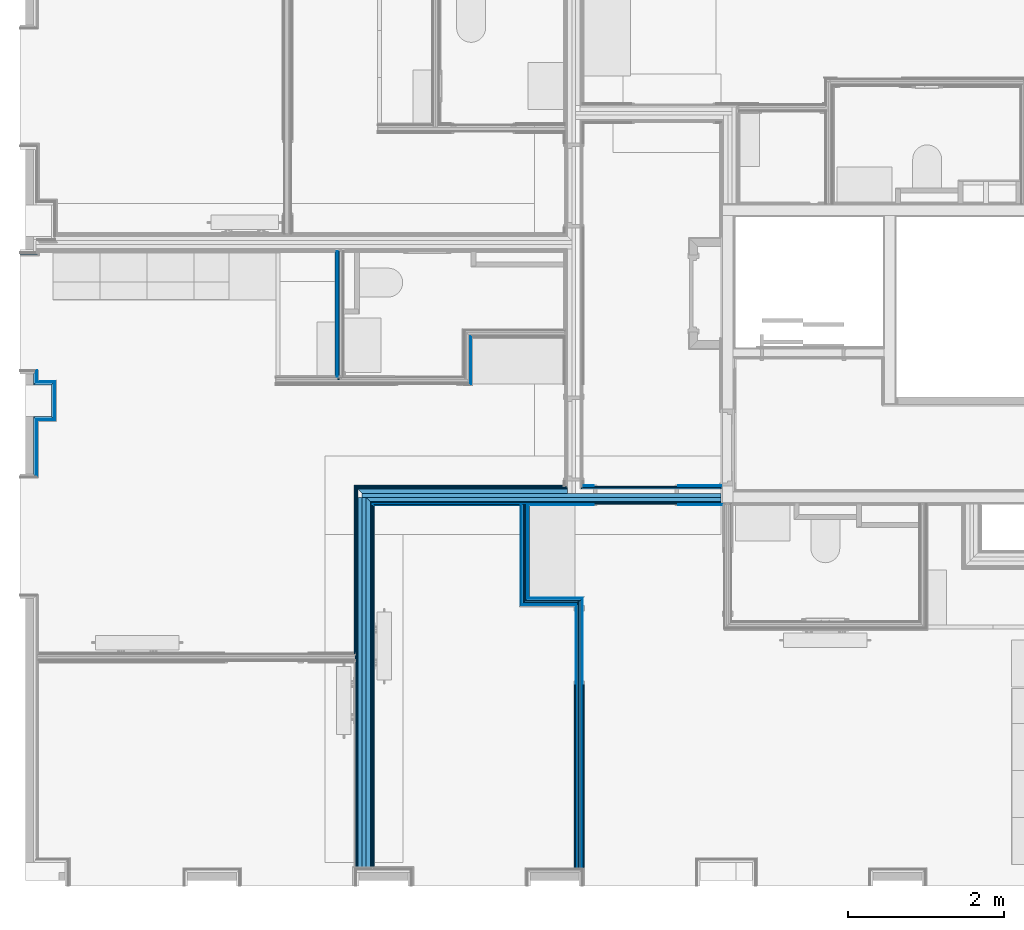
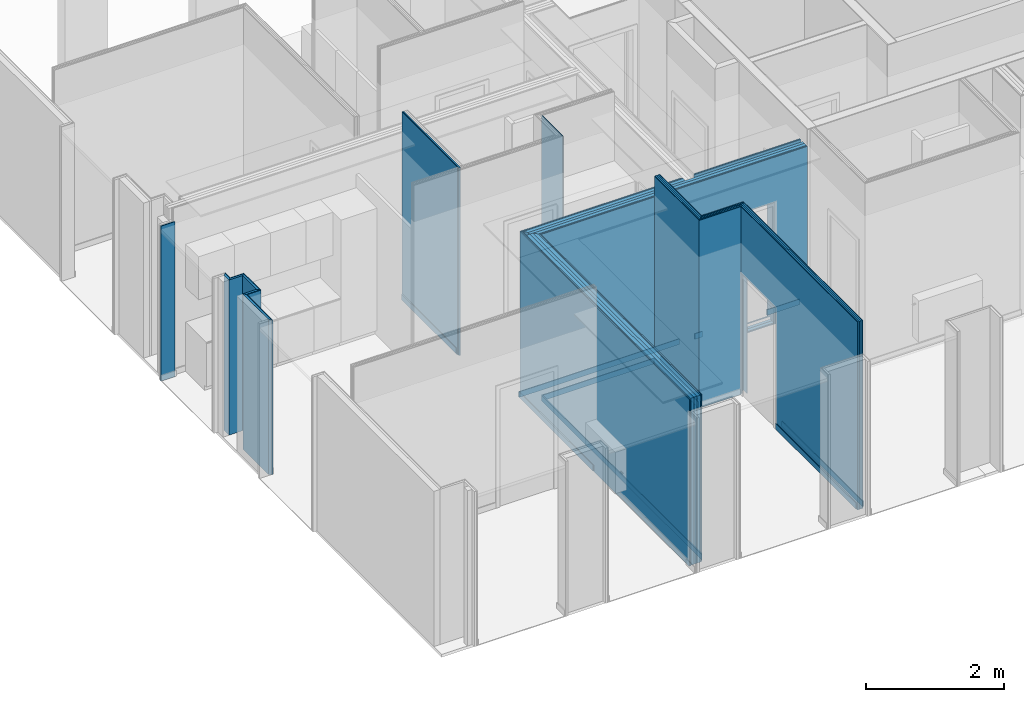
# One storey, part 10 of 64: 56 building element parts, 3 openings, 13 elements without a shape of their own.
"""IFC2X3 building model written with IfcOpenShell, lengths in metres."""

from ifc_helpers import new_model, entity, si_unit, converted_unit, derived_unit, money_unit, direction, frame, frame_2d, origin_with_axes, place, context, subcontext, project, spatial, polyline, rectangle, outline, extrude, material, type_object, element, aggregate, save


model = new_model("IFC2X3")

# Units and contexts
model_context = context("Model", 3, precision=1e-05, world=origin_with_axes(), true_north=direction((0.0, 1.0)))
body_context = subcontext(model_context, "Body", "Model", "MODEL_VIEW", scale=1.0)
ifc_project = project(units=[si_unit("LENGTHUNIT", "METRE"), si_unit("AREAUNIT", "SQUARE_METRE"), si_unit("VOLUMEUNIT", "CUBIC_METRE"), si_unit("ABSORBEDDOSEUNIT", "GRAY"), si_unit("AMOUNTOFSUBSTANCEUNIT", "MOLE"), si_unit("DOSEEQUIVALENTUNIT", "SIEVERT"), si_unit("ELECTRICCAPACITANCEUNIT", "FARAD"), si_unit("ELECTRICCHARGEUNIT", "COULOMB"), si_unit("ELECTRICCONDUCTANCEUNIT", "SIEMENS"), si_unit("ELECTRICCURRENTUNIT", "AMPERE"), si_unit("ELECTRICRESISTANCEUNIT", "OHM"), si_unit("ELECTRICVOLTAGEUNIT", "VOLT"), si_unit("ENERGYUNIT", "JOULE"), si_unit("FORCEUNIT", "NEWTON"), si_unit("FREQUENCYUNIT", "HERTZ"), si_unit("ILLUMINANCEUNIT", "LUX"), si_unit("INDUCTANCEUNIT", "HENRY"), si_unit("LUMINOUSFLUXUNIT", "LUMEN"), si_unit("LUMINOUSINTENSITYUNIT", "CANDELA"), si_unit("MAGNETICFLUXDENSITYUNIT", "TESLA"), si_unit("MAGNETICFLUXUNIT", "WEBER"), si_unit("MASSUNIT", "GRAM"), converted_unit("PLANEANGLEUNIT", "degree", entity("IfcReal", 0.0174532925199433), si_unit("PLANEANGLEUNIT", "RADIAN"), dimensions=[0, 0, 0, 0, 0, 0, 0]), si_unit("POWERUNIT", "WATT"), si_unit("PRESSUREUNIT", "PASCAL"), si_unit("RADIOACTIVITYUNIT", "BECQUEREL"), si_unit("SOLIDANGLEUNIT", "STERADIAN"), si_unit("THERMODYNAMICTEMPERATUREUNIT", "KELVIN"), si_unit("TIMEUNIT", "SECOND"), derived_unit("ACCELERATIONUNIT", [(si_unit("LENGTHUNIT", "METRE"), 1), (si_unit("TIMEUNIT", "SECOND"), -2)]), derived_unit("ANGULARVELOCITYUNIT", [(converted_unit("PLANEANGLEUNIT", "degree", entity("IfcReal", 0.0174532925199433), si_unit("PLANEANGLEUNIT", "RADIAN"), dimensions=[0, 0, 0, 0, 0, 0, 0]), 1), (si_unit("TIMEUNIT", "SECOND"), -1)]), derived_unit("CURVATUREUNIT", [(converted_unit("PLANEANGLEUNIT", "degree", entity("IfcReal", 0.0174532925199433), si_unit("PLANEANGLEUNIT", "RADIAN"), dimensions=[0, 0, 0, 0, 0, 0, 0]), 1), (si_unit("LENGTHUNIT", "METRE"), -1)]), derived_unit("DYNAMICVISCOSITYUNIT", [(si_unit("PRESSUREUNIT", "PASCAL"), 1), (si_unit("TIMEUNIT", "SECOND"), 1)]), derived_unit("HEATFLUXDENSITYUNIT", [(si_unit("POWERUNIT", "WATT"), 1), (si_unit("LENGTHUNIT", "METRE"), -2)]), derived_unit("HEATINGVALUEUNIT", [(si_unit("ENERGYUNIT", "JOULE"), 1), (si_unit("MASSUNIT", "GRAM"), -1)]), derived_unit("INTEGERCOUNTRATEUNIT", [(si_unit("TIMEUNIT", "SECOND"), -1)]), derived_unit("IONCONCENTRATIONUNIT", [(si_unit("MASSUNIT", "GRAM"), 1), (si_unit("VOLUMEUNIT", "CUBIC_METRE"), -1)]), derived_unit("ISOTHERMALMOISTURECAPACITYUNIT", [(si_unit("VOLUMEUNIT", "CUBIC_METRE"), 1), (si_unit("MASSUNIT", "GRAM"), -1)]), derived_unit("KINEMATICVISCOSITYUNIT", [(si_unit("AREAUNIT", "SQUARE_METRE"), 1), (si_unit("TIMEUNIT", "SECOND"), -1)]), derived_unit("LINEARFORCEUNIT", [(si_unit("FORCEUNIT", "NEWTON"), 1), (si_unit("LENGTHUNIT", "METRE"), -1)]), derived_unit("LINEARMOMENTUNIT", [(si_unit("FORCEUNIT", "NEWTON"), 1), (si_unit("LENGTHUNIT", "METRE"), -1)]), derived_unit("LINEARSTIFFNESSUNIT", [(si_unit("FORCEUNIT", "NEWTON"), 1), (si_unit("LENGTHUNIT", "METRE"), -1)]), derived_unit("LINEARVELOCITYUNIT", [(si_unit("LENGTHUNIT", "METRE"), 1), (si_unit("TIMEUNIT", "SECOND"), -1)]), derived_unit("LUMINOUSINTENSITYDISTRIBUTIONUNIT", [(si_unit("LUMINOUSINTENSITYUNIT", "CANDELA"), 1), (si_unit("LUMINOUSFLUXUNIT", "LUMEN"), -1)]), derived_unit("MASSDENSITYUNIT", [(si_unit("MASSUNIT", "GRAM"), 1), (si_unit("VOLUMEUNIT", "CUBIC_METRE"), -1)]), derived_unit("MASSFLOWRATEUNIT", [(si_unit("MASSUNIT", "GRAM"), 1), (si_unit("TIMEUNIT", "SECOND"), -1)]), derived_unit("MASSPERLENGTHUNIT", [(si_unit("MASSUNIT", "GRAM"), 1), (si_unit("LENGTHUNIT", "METRE"), -1)]), derived_unit("MODULUSOFELASTICITYUNIT", [(si_unit("FORCEUNIT", "NEWTON"), 1), (si_unit("AREAUNIT", "SQUARE_METRE"), -1)]), derived_unit("MODULUSOFLINEARSUBGRADEREACTIONUNIT", [(si_unit("FORCEUNIT", "NEWTON"), 1), (si_unit("LENGTHUNIT", "METRE"), -2)]), derived_unit("MODULUSOFROTATIONALSUBGRADEREACTIONUNIT", [(si_unit("FORCEUNIT", "NEWTON"), 1), (si_unit("LENGTHUNIT", "METRE"), 1)]), derived_unit("MODULUSOFSUBGRADEREACTIONUNIT", [(si_unit("FORCEUNIT", "NEWTON"), 1), (si_unit("VOLUMEUNIT", "CUBIC_METRE"), -1)]), derived_unit("MOISTUREDIFFUSIVITYUNIT", [(si_unit("VOLUMEUNIT", "CUBIC_METRE"), 1), (si_unit("TIMEUNIT", "SECOND"), -1)]), derived_unit("MOLECULARWEIGHTUNIT", [(si_unit("MASSUNIT", "GRAM"), 1), (si_unit("AMOUNTOFSUBSTANCEUNIT", "MOLE"), -1)]), derived_unit("PLANARFORCEUNIT", [(si_unit("FORCEUNIT", "NEWTON"), 1), (si_unit("LENGTHUNIT", "METRE"), -2)]), derived_unit("ROTATIONALFREQUENCYUNIT", [(si_unit("TIMEUNIT", "SECOND"), -1)]), derived_unit("ROTATIONALMASSUNIT", [(si_unit("MASSUNIT", "GRAM"), 1), (si_unit("LENGTHUNIT", "METRE"), 2)]), derived_unit("ROTATIONALSTIFFNESSUNIT", [(si_unit("FORCEUNIT", "NEWTON"), 1), (si_unit("LENGTHUNIT", "METRE"), 1), (converted_unit("PLANEANGLEUNIT", "degree", entity("IfcReal", 0.0174532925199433), si_unit("PLANEANGLEUNIT", "RADIAN"), dimensions=[0, 0, 0, 0, 0, 0, 0]), -1)]), derived_unit("SECTIONAREAINTEGRALUNIT", [(si_unit("LENGTHUNIT", "METRE"), 5)]), derived_unit("SECTIONMODULUSUNIT", [(si_unit("LENGTHUNIT", "METRE"), 3)]), derived_unit("SHEARMODULUSUNIT", [(si_unit("FORCEUNIT", "NEWTON"), 1), (si_unit("AREAUNIT", "SQUARE_METRE"), -1)]), derived_unit("SOUNDPOWERUNIT", [(si_unit("ENERGYUNIT", "JOULE"), 1), (si_unit("TIMEUNIT", "SECOND"), -1)]), derived_unit("SPECIFICHEATCAPACITYUNIT", [(si_unit("FORCEUNIT", "NEWTON"), 1), (si_unit("MASSUNIT", "GRAM"), -1), (si_unit("THERMODYNAMICTEMPERATUREUNIT", "KELVIN"), -1)]), derived_unit("TEMPERATUREGRADIENTUNIT", [(si_unit("THERMODYNAMICTEMPERATUREUNIT", "KELVIN"), 1), (si_unit("LENGTHUNIT", "METRE"), -1)]), derived_unit("THERMALADMITTANCEUNIT", [(si_unit("POWERUNIT", "WATT"), 1), (si_unit("AREAUNIT", "SQUARE_METRE"), -1), (si_unit("THERMODYNAMICTEMPERATUREUNIT", "KELVIN"), -1)]), derived_unit("THERMALCONDUCTANCEUNIT", [(si_unit("POWERUNIT", "WATT"), 1), (si_unit("LENGTHUNIT", "METRE"), -1), (si_unit("THERMODYNAMICTEMPERATUREUNIT", "KELVIN"), -1)]), derived_unit("THERMALEXPANSIONCOEFFICIENTUNIT", [(si_unit("THERMODYNAMICTEMPERATUREUNIT", "KELVIN"), -1)]), derived_unit("THERMALRESISTANCEUNIT", [(si_unit("AREAUNIT", "SQUARE_METRE"), 1), (si_unit("POWERUNIT", "WATT"), -1)]), derived_unit("THERMALTRANSMITTANCEUNIT", [(si_unit("POWERUNIT", "WATT"), 1), (si_unit("AREAUNIT", "SQUARE_METRE"), -1), (si_unit("THERMODYNAMICTEMPERATUREUNIT", "KELVIN"), -1)]), derived_unit("TORQUEUNIT", [(si_unit("FORCEUNIT", "NEWTON"), 1), (si_unit("LENGTHUNIT", "METRE"), 1)]), derived_unit("VAPORPERMEABILITYUNIT", [(si_unit("MASSUNIT", "GRAM"), 1), (si_unit("TIMEUNIT", "SECOND"), -1)]), derived_unit("VOLUMETRICFLOWRATEUNIT", [(si_unit("VOLUMEUNIT", "CUBIC_METRE"), 1), (si_unit("TIMEUNIT", "SECOND"), -1)]), derived_unit("WARPINGCONSTANTUNIT", [(si_unit("LENGTHUNIT", "METRE"), 6)]), derived_unit("WARPINGMOMENTUNIT", [(si_unit("FORCEUNIT", "NEWTON"), 1), (si_unit("LENGTHUNIT", "METRE"), 2)]), money_unit("GBP")], contexts=[model_context])

# Site, building, storey
site_placement = place(None, origin_with_axes())
site = spatial("IfcSite", under=ifc_project, at=site_placement, Name="Site", CompositionType="ELEMENT")
building_placement = place(site_placement, origin_with_axes())
building = spatial("IfcBuilding", under=site, at=building_placement, Name="Building01", CompositionType="ELEMENT")
storey_placement = place(building_placement, frame((0.0, 0.0, 8.64), z_axis=(0.0, 0.0, 1.0), x_axis=(1.0, 0.0, 0.0)))
storey = spatial("IfcBuildingStorey", under=building, at=storey_placement, Name="2F", CompositionType="ELEMENT", Elevation=8.64)

# Wall, building element parts
wall_type_1 = type_object("IfcWallType", Name="SHE_A-Walls_Type06d_ExternalWallInsulation_48mm", PredefinedType="NOTDEFINED")
wall_1_placement = place(storey_placement, frame((0.27, 6.64418, 0.0), z_axis=(0.0, 0.0, 1.0), x_axis=(0.0, -1.0, 0.0)))
wall_1 = element("IfcWall", 1, at=wall_1_placement, inside=storey, type_object=wall_type_1, Name="6D", ObjectType="SHE_A-Walls_Type06d_ExternalWallInsulation_48mm")
ifc_material_1 = material(Name="A_BSUK_Insulation")
placement_1 = place(wall_1_placement, origin_with_axes())
building_element_part_1 = element("IfcBuildingElementPart", 2, at=placement_1, material=ifc_material_1, Name="1", context=body_context, shape_type="SweptSolid", body=[
    extrude(outline(polyline([(0.10818, 0.036), (-0.036, 0.036), (0.0, 0.0), (0.14418, 0.0), (0.10818, 0.036)])), origin_with_axes(), (0.0, 0.0, 1.0), 2.74),
])
ifc_material_2 = material(Name="A_BSUK_WallInternal_Finishes_Plasterboard")
building_element_part_2 = element("IfcBuildingElementPart", 3, at=placement_1, material=ifc_material_2, Name="2", context=body_context, shape_type="SweptSolid", body=[
    extrude(outline(polyline([(0.09618, 0.048), (-0.048, 0.048), (-0.035, 0.035), (0.10918, 0.035), (0.09618, 0.048)])), origin_with_axes(), (0.0, 0.0, 1.0), 2.74),
])
aggregate(wall_1, [building_element_part_1, building_element_part_2])

wall_2_placement = place(storey_placement, frame((0.27, 6.5, 0.0), z_axis=(0.0, 0.0, 1.0), x_axis=(1.0, 0.0, 0.0)))
wall_2 = element("IfcWall", 4, at=wall_2_placement, inside=storey, type_object=wall_type_1, Name="6D", ObjectType="SHE_A-Walls_Type06d_ExternalWallInsulation_48mm")
placement_2 = place(wall_2_placement, origin_with_axes())
building_element_part_3 = element("IfcBuildingElementPart", 5, at=placement_2, material=ifc_material_1, Name="1", context=body_context, shape_type="SweptSolid", body=[
    extrude(outline(polyline([(0.266, 0.036), (0.036, 0.036), (0.0, 0.0), (0.23, 0.0), (0.266, 0.036)])), origin_with_axes(), (0.0, 0.0, 1.0), 2.74),
])
building_element_part_4 = element("IfcBuildingElementPart", 6, at=placement_2, material=ifc_material_2, Name="2", context=body_context, shape_type="SweptSolid", body=[
    extrude(outline(polyline([(0.278, 0.048), (0.048, 0.048), (0.035, 0.035), (0.265, 0.035), (0.278, 0.048)])), origin_with_axes(), (0.0, 0.0, 1.0), 2.74),
])
aggregate(wall_2, [building_element_part_3, building_element_part_4])

wall_3_placement = place(storey_placement, frame((0.5, 6.5, 0.0), z_axis=(0.0, 0.0, 1.0), x_axis=(0.0, -1.0, 0.0)))
wall_3 = element("IfcWall", 7, at=wall_3_placement, inside=storey, type_object=wall_type_1, Name="6D", ObjectType="SHE_A-Walls_Type06d_ExternalWallInsulation_48mm")
placement_3 = place(wall_3_placement, origin_with_axes())
building_element_part_5 = element("IfcBuildingElementPart", 8, at=placement_3, material=ifc_material_1, Name="1", context=body_context, shape_type="SweptSolid", body=[
    extrude(outline(polyline([(0.436, 0.036), (-0.036, 0.036), (0.0, 0.0), (0.4, 0.0), (0.436, 0.036)])), origin_with_axes(), (0.0, 0.0, 1.0), 2.74),
])
building_element_part_6 = element("IfcBuildingElementPart", 9, at=placement_3, material=ifc_material_2, Name="2", context=body_context, shape_type="SweptSolid", body=[
    extrude(outline(polyline([(0.448, 0.048), (-0.048, 0.048), (-0.035, 0.035), (0.435, 0.035), (0.448, 0.048)])), origin_with_axes(), (0.0, 0.0, 1.0), 2.74),
])
aggregate(wall_3, [building_element_part_5, building_element_part_6])

wall_4_placement = place(storey_placement, frame((0.5, 6.1, 0.0), z_axis=(0.0, 0.0, 1.0), x_axis=(-1.0, 0.0, 0.0)))
wall_4 = element("IfcWall", 10, at=wall_4_placement, inside=storey, type_object=wall_type_1, Name="6D", ObjectType="SHE_A-Walls_Type06d_ExternalWallInsulation_48mm")
placement_4 = place(wall_4_placement, origin_with_axes())
building_element_part_7 = element("IfcBuildingElementPart", 11, at=placement_4, material=ifc_material_1, Name="1", context=body_context, shape_type="SweptSolid", body=[
    extrude(outline(polyline([(0.194, 0.036), (-0.036, 0.036), (0.0, 0.0), (0.23, 0.0), (0.194, 0.036)])), origin_with_axes(), (0.0, 0.0, 1.0), 2.74),
])
building_element_part_8 = element("IfcBuildingElementPart", 12, at=placement_4, material=ifc_material_2, Name="2", context=body_context, shape_type="SweptSolid", body=[
    extrude(outline(polyline([(0.182, 0.048), (-0.048, 0.048), (-0.035, 0.035), (0.195, 0.035), (0.182, 0.048)])), origin_with_axes(), (0.0, 0.0, 1.0), 2.74),
])
aggregate(wall_4, [building_element_part_7, building_element_part_8])

wall_5_placement = place(storey_placement, frame((0.27, 6.1, 0.0), z_axis=(0.0, 0.0, 1.0), x_axis=(0.0, -1.0, 0.0)))
wall_5 = element("IfcWall", 13, at=wall_5_placement, inside=storey, type_object=wall_type_1, Name="6D", ObjectType="SHE_A-Walls_Type06d_ExternalWallInsulation_48mm")
placement_5 = place(wall_5_placement, origin_with_axes())
building_element_part_9 = element("IfcBuildingElementPart", 14, at=placement_5, material=ifc_material_1, Name="1", context=body_context, shape_type="SweptSolid", body=[
    extrude(outline(polyline([(0.773, 0.036), (0.036, 0.036), (0.0, 0.0), (0.737, 0.0), (0.773, 0.036)])), origin_with_axes(), (0.0, 0.0, 1.0), 2.74),
])
building_element_part_10 = element("IfcBuildingElementPart", 15, at=placement_5, material=ifc_material_2, Name="2", context=body_context, shape_type="SweptSolid", body=[
    extrude(outline(polyline([(0.785, 0.048), (0.048, 0.048), (0.035, 0.035), (0.772, 0.035), (0.785, 0.048)])), origin_with_axes(), (0.0, 0.0, 1.0), 2.74),
])
aggregate(wall_5, [building_element_part_9, building_element_part_10])

wall_type_2 = type_object("IfcWallType", Name="SHE_A-Walls_Type05a_Partition_95mm_tall", PredefinedType="NOTDEFINED")
wall_6_placement = place(storey_placement, frame((4.20573, 6.571475, 0.0), z_axis=(0.0, 0.0, 1.0), x_axis=(0.0, 1.0, 0.0)))
wall_6 = element("IfcWall", 16, at=wall_6_placement, inside=storey, type_object=wall_type_2, Name="5A", ObjectType="SHE_A-Walls_Type05a_Partition_95mm_tall")
ifc_material_3 = material(Name="Air Cavity")
placement_6 = place(wall_6_placement, origin_with_axes())
building_element_part_11 = element("IfcBuildingElementPart", 17, at=placement_6, material=ifc_material_3, Name="5", context=body_context, shape_type="SweptSolid", body=[
    extrude(rectangle(XDim=1.639195, YDim=0.023, at=frame_2d((0.819597, 0.0365), x_axis=(-1.0, 0.0))), origin_with_axes(), (0.0, 0.0, 1.0), 3.32),
])
building_element_part_12 = element("IfcBuildingElementPart", 18, at=placement_6, material=ifc_material_2, Name="6", context=body_context, shape_type="SweptSolid", body=[
    extrude(rectangle(XDim=1.604195, YDim=0.012, at=frame_2d((0.837097, 0.054), x_axis=(-1.0, 0.0))), origin_with_axes(), (0.0, 0.0, 1.0), 3.32),
])
ifc_material_4 = material(Name="A_BSUK_Walls_Timber")
building_element_part_13 = element("IfcBuildingElementPart", 19, at=placement_6, material=ifc_material_4, Name="7", context=body_context, shape_type="SweptSolid", body=[
    extrude(rectangle(XDim=1.574195, YDim=0.015, at=frame_2d((0.837097, 0.0675), x_axis=(-1.0, 0.0))), frame((0.0, 0.0, 0.015), z_axis=(0.0, 0.0, 1.0), x_axis=(1.0, 0.0, 0.0)), (0.0, 0.0, 1.0), 0.1),
])
aggregate(wall_6, [building_element_part_11, building_element_part_12, building_element_part_13])

wall_type_3 = type_object("IfcWallType", Name="SHE_A-Walls_Type01c_Partywall_225mm_twin_tall", PredefinedType="NOTDEFINED")
wall_7_placement = place(storey_placement, frame((4.522, 0.318, 0.0), z_axis=(0.0, 0.0, 1.0), x_axis=(0.0, 1.0, 0.0)))
wall_7 = element("IfcWall", 20, at=wall_7_placement, inside=storey, type_object=wall_type_3, Name="1C", ObjectType="SHE_A-Walls_Type01c_Partywall_225mm_twin_tall")
placement_7 = place(wall_7_placement, origin_with_axes())
building_element_part_14 = element("IfcBuildingElementPart", 21, at=placement_7, material=ifc_material_4, Name="1", context=body_context, shape_type="SweptSolid", body=[
    extrude(outline(polyline([(4.662, -0.088), (0.015, -0.088), (0.03, -0.103), (4.647, -0.103), (4.662, -0.088)])), frame((0.0, 0.0, 0.015), z_axis=(0.0, 0.0, 1.0), x_axis=(1.0, 0.0, 0.0)), (0.0, 0.0, 1.0), 0.1),
])
building_element_part_15 = element("IfcBuildingElementPart", 22, at=placement_7, material=ifc_material_2, Name="2", context=body_context, shape_type="SweptSolid", body=[
    extrude(outline(polyline([(4.677, -0.073), (0.0, -0.073), (0.015, -0.088), (4.662, -0.088), (4.677, -0.073)])), origin_with_axes(), (0.0, 0.0, 1.0), 2.95),
])
building_element_part_16 = element("IfcBuildingElementPart", 23, at=placement_7, material=ifc_material_2, Name="3", context=body_context, shape_type="SweptSolid", body=[
    extrude(outline(polyline([(4.692, -0.058), (0.0, -0.058), (0.0, -0.073), (4.677, -0.073), (4.692, -0.058)])), origin_with_axes(), (0.0, 0.0, 1.0), 2.95),
])
building_element_part_17 = element("IfcBuildingElementPart", 24, at=placement_7, material=ifc_material_3, Name="4", context=body_context, shape_type="SweptSolid", body=[
    extrude(outline(polyline([(4.75, 0.0), (0.0, 0.0), (0.0, -0.058), (4.692, -0.058), (4.75, 0.0)])), origin_with_axes(), (0.0, 0.0, 1.0), 2.95),
])
building_element_part_18 = element("IfcBuildingElementPart", 25, at=placement_7, material=ifc_material_1, Name="5", context=body_context, shape_type="SweptSolid", body=[
    extrude(rectangle(XDim=4.749, YDim=0.05, at=frame_2d((2.3745, 0.025), x_axis=(-1.0, 0.0))), origin_with_axes(), (0.0, 0.0, 1.0), 2.95),
])
building_element_part_19 = element("IfcBuildingElementPart", 26, at=placement_7, material=ifc_material_3, Name="6", context=body_context, shape_type="SweptSolid", body=[
    extrude(rectangle(XDim=4.749, YDim=0.057, at=frame_2d((2.3745, 0.0785), x_axis=(-1.0, 0.0))), origin_with_axes(), (0.0, 0.0, 1.0), 2.95),
])
building_element_part_20 = element("IfcBuildingElementPart", 27, at=placement_7, material=ifc_material_2, Name="7", context=body_context, shape_type="SweptSolid", body=[
    extrude(outline(polyline([(-0.012, 0.122), (-0.012, 0.107), (4.857, 0.107), (4.872, 0.122), (-0.012, 0.122)])), origin_with_axes(), (0.0, 0.0, 1.0), 2.95),
])
building_element_part_21 = element("IfcBuildingElementPart", 28, at=placement_7, material=ifc_material_2, Name="8", context=body_context, shape_type="SweptSolid", body=[
    extrude(outline(polyline([(-0.012, 0.137), (-0.012, 0.122), (4.872, 0.122), (4.887, 0.137), (-0.012, 0.137)])), origin_with_axes(), (0.0, 0.0, 1.0), 2.95),
])
building_element_part_22 = element("IfcBuildingElementPart", 29, at=placement_7, material=ifc_material_4, Name="10", context=body_context, shape_type="SweptSolid", body=[
    extrude(outline(polyline([(4.902, 0.152), (2.747286, 0.152), (2.747286, 0.137), (4.887, 0.137), (4.902, 0.152)])), frame((0.0, 0.0, 0.015), z_axis=(0.0, 0.0, 1.0), x_axis=(1.0, 0.0, 0.0)), (0.0, 0.0, 1.0), 0.1),
])
aggregate(wall_7, [building_element_part_14, building_element_part_15, building_element_part_16, building_element_part_17, building_element_part_18, building_element_part_19, building_element_part_20, building_element_part_21, building_element_part_22])

wall_8_placement = place(storey_placement, frame((7.235, 3.72, 0.0), z_axis=(0.0, 0.0, 1.0), x_axis=(-1.0, 0.0, 0.0)))
wall_8 = element("IfcWall", 30, at=wall_8_placement, inside=storey, type_object=wall_type_2, Name="5A", ObjectType="SHE_A-Walls_Type05a_Partition_95mm_tall")
placement_8 = place(wall_8_placement, origin_with_axes())
building_element_part_23 = element("IfcBuildingElementPart", 31, at=placement_8, material=ifc_material_2, Name="2", context=body_context, shape_type="SweptSolid", body=[
    extrude(outline(polyline([(0.652, -0.048), (-0.048, -0.048), (-0.06, -0.06), (0.64, -0.06), (0.652, -0.048)])), origin_with_axes(), (0.0, 0.0, 1.0), 3.32),
])
building_element_part_24 = element("IfcBuildingElementPart", 32, at=placement_8, material=ifc_material_3, Name="3", context=body_context, shape_type="SweptSolid", body=[
    extrude(outline(polyline([(0.675, -0.025), (-0.025, -0.025), (-0.048, -0.048), (0.652, -0.048), (0.675, -0.025)])), origin_with_axes(), (0.0, 0.0, 1.0), 3.32),
])
building_element_part_25 = element("IfcBuildingElementPart", 33, at=placement_8, material=ifc_material_1, Name="4", context=body_context, shape_type="SweptSolid", body=[
    extrude(outline(polyline([(0.7, 0.0), (0.0, 0.0), (0.0, -0.025), (0.675, -0.025), (0.7, 0.0)])), origin_with_axes(), (0.0, 0.0, 1.0), 3.32),
])
building_element_part_26 = element("IfcBuildingElementPart", 34, at=placement_8, material=ifc_material_3, Name="5", context=body_context, shape_type="SweptSolid", body=[
    extrude(outline(polyline([(0.723, 0.023), (0.0, 0.023), (0.0, 0.0), (0.7, 0.0), (0.723, 0.023)])), origin_with_axes(), (0.0, 0.0, 1.0), 3.32),
])
building_element_part_27 = element("IfcBuildingElementPart", 35, at=placement_8, material=ifc_material_2, Name="6", context=body_context, shape_type="SweptSolid", body=[
    extrude(outline(polyline([(0.735, 0.035), (0.035, 0.035), (0.023, 0.023), (0.723, 0.023), (0.735, 0.035)])), origin_with_axes(), (0.0, 0.0, 1.0), 3.32),
])
aggregate(wall_8, [building_element_part_23, building_element_part_24, building_element_part_25, building_element_part_26, building_element_part_27])

# Wall, openings, building element parts
wall_9_placement = place(storey_placement, frame((7.26, 3.745, 0.0), z_axis=(0.0, 0.0, 1.0), x_axis=(0.0, -1.0, 0.0)))
wall_9 = element("IfcWall", 36, at=wall_9_placement, inside=storey, type_object=wall_type_2, Name="5A", ObjectType="SHE_A-Walls_Type05a_Partition_95mm_tall")
opening_1_placement = place(wall_9_placement, frame((0.129, -0.075, -0.015), z_axis=(0.0, 0.0, 1.0), x_axis=(1.0, 0.0, 0.0)))
element("IfcOpeningElement", 37, at=opening_1_placement, cuts=wall_9, Name="Opening", ObjectType="Opening", context=body_context, shape_type="SweptSolid", body=[
    extrude(outline(polyline([(0.0, 2.142), (-0.9, 2.142), (-0.9, 0.015), (-0.464219, 0.015), (-0.464219, 0.0), (0.0, 0.0), (0.0, 2.142)])), frame((0.0, 0.0, 0.0), z_axis=(0.0, 1.0, 0.0), x_axis=(-1.0, 0.0, 0.0)), (0.0, 0.0, 1.0), 0.125),
    extrude(outline(polyline([(0.619781, 2.157), (-0.942, 2.157), (-0.942, 0.015), (-0.464219, 0.015), (-0.464219, 0.0), (0.619781, 0.0), (0.619781, 2.157)])), frame((0.0, 0.015, 0.0), z_axis=(0.0, 1.0, 0.0), x_axis=(-1.0, 0.0, 0.0)), (0.0, 0.0, 1.0), 0.012),
    extrude(outline(polyline([(0.619781, 2.157), (-0.942, 2.157), (-0.942, 0.015), (-0.464219, 0.015), (-0.464219, 0.0), (0.619781, 0.0), (0.619781, 2.157)])), frame((0.0, 0.027, 0.0), z_axis=(0.0, 1.0, 0.0), x_axis=(-1.0, 0.0, 0.0)), (0.0, 0.0, 1.0), 0.023),
    extrude(outline(polyline([(0.619781, 2.157), (-0.942, 2.157), (-0.942, 0.015), (-0.464219, 0.015), (-0.464219, 0.0), (0.619781, 0.0), (0.619781, 2.157)])), frame((0.0, 0.05, 0.0), z_axis=(0.0, 1.0, 0.0), x_axis=(-1.0, 0.0, 0.0)), (0.0, 0.0, 1.0), 0.025),
    extrude(outline(polyline([(0.619781, 2.157), (-0.942, 2.157), (-0.942, 0.015), (-0.464219, 0.015), (-0.464219, 0.0), (0.619781, 0.0), (0.619781, 2.157)])), frame((0.0, 0.075, 0.0), z_axis=(0.0, 1.0, 0.0), x_axis=(-1.0, 0.0, 0.0)), (0.0, 0.0, 1.0), 0.023),
    extrude(rectangle(XDim=0.9, YDim=2.142, at=frame_2d((-0.45, 1.071), x_axis=(-1.0, 0.0))), frame((0.0, 0.098, 0.0), z_axis=(0.0, 1.0, 0.0), x_axis=(-1.0, 0.0, 0.0)), (0.0, 0.0, 1.0), 0.012),
    extrude(outline(polyline([(0.042, 2.142), (0.042, 2.157), (-0.942, 2.157), (-0.942, 0.015), (-0.464219, 0.015), (-0.464219, 0.0), (0.619781, 0.0), (0.619781, 2.142), (0.042, 2.142)])), frame((0.0, 0.0, 0.0), z_axis=(0.0, 1.0, 0.0), x_axis=(-1.0, 0.0, 0.0)), (0.0, 0.0, 1.0), 0.098),
    extrude(outline(polyline([(0.042, 2.142), (0.042, 2.157), (-0.942, 2.157), (-0.942, 0.015), (-0.464219, 0.015), (-0.464219, 0.0), (0.619781, 0.0), (0.619781, 2.142), (0.042, 2.142)])), frame((0.0, 0.11, 0.0), z_axis=(0.0, 1.0, 0.0), x_axis=(-1.0, 0.0, 0.0)), (0.0, 0.0, 1.0), 0.015),
])
opening_2_placement = place(wall_9_placement, frame((0.087, 0.023, 0.0), z_axis=(0.0, 0.0, 1.0), x_axis=(1.0, 0.0, 0.0)))
element("IfcOpeningElement", 38, at=opening_2_placement, cuts=wall_9, Name="Opening", ObjectType="Recess", context=body_context, shape_type="SweptSolid", body=[
    extrude(rectangle(XDim=2.142, YDim=0.984, at=frame_2d((-0.492, 1.071), x_axis=(0.0, 1.0))), frame((0.0, 0.0, 0.0), z_axis=(0.0, 1.0, 0.0), x_axis=(-1.0, 0.0, 0.0)), (0.0, 0.0, 1.0), 0.012),
])
placement_9 = place(wall_9_placement, origin_with_axes())
building_element_part_28 = element("IfcBuildingElementPart", 39, at=placement_9, material=ifc_material_4, Name="1", context=body_context, shape_type="SweptSolid", body=[
    extrude(outline(polyline([(3.412, -0.06), (0.06, -0.06), (0.075, -0.075), (3.412, -0.075), (3.412, -0.06)])), frame((0.0, 0.0, 0.015), z_axis=(0.0, 0.0, 1.0), x_axis=(1.0, 0.0, 0.0)), (0.0, 0.0, 1.0), 0.1),
])
building_element_part_29 = element("IfcBuildingElementPart", 40, at=placement_9, material=ifc_material_2, Name="2", context=body_context, shape_type="SweptSolid", body=[
    extrude(outline(polyline([(3.427, -0.048), (0.048, -0.048), (0.06, -0.06), (3.427, -0.06), (3.427, -0.048)])), origin_with_axes(), (0.0, 0.0, 1.0), 3.32),
])
building_element_part_30 = element("IfcBuildingElementPart", 41, at=placement_9, material=ifc_material_3, Name="3", context=body_context, shape_type="SweptSolid", body=[
    extrude(outline(polyline([(3.427, -0.025), (0.025, -0.025), (0.048, -0.048), (3.427, -0.048), (3.427, -0.025)])), origin_with_axes(), (0.0, 0.0, 1.0), 3.32),
])
building_element_part_31 = element("IfcBuildingElementPart", 42, at=placement_9, material=ifc_material_1, Name="4", context=body_context, shape_type="SweptSolid", body=[
    extrude(rectangle(XDim=3.427, YDim=0.025, at=frame_2d((1.7135, -0.0125), x_axis=(-1.0, 0.0))), origin_with_axes(), (0.0, 0.0, 1.0), 3.32),
])
building_element_part_32 = element("IfcBuildingElementPart", 43, at=placement_9, material=ifc_material_3, Name="5", context=body_context, shape_type="SweptSolid", body=[
    extrude(rectangle(XDim=3.427, YDim=0.023, at=frame_2d((1.7135, 0.0115), x_axis=(-1.0, 0.0))), origin_with_axes(), (0.0, 0.0, 1.0), 3.32),
])
building_element_part_33 = element("IfcBuildingElementPart", 44, at=placement_9, material=ifc_material_2, Name="6", context=body_context, shape_type="SweptSolid", body=[
    extrude(outline(polyline([(3.427, 0.035), (-0.035, 0.035), (-0.023, 0.023), (3.427, 0.023), (3.427, 0.035)])), origin_with_axes(), (0.0, 0.0, 1.0), 3.32),
])
building_element_part_34 = element("IfcBuildingElementPart", 45, at=placement_9, material=ifc_material_4, Name="7", context=body_context, shape_type="SweptSolid", body=[
    extrude(outline(polyline([(3.412, 0.05), (-0.05, 0.05), (-0.035, 0.035), (3.412, 0.035), (3.412, 0.05)])), frame((0.0, 0.0, 0.015), z_axis=(0.0, 0.0, 1.0), x_axis=(1.0, 0.0, 0.0)), (0.0, 0.0, 1.0), 0.1),
])
aggregate(wall_9, [building_element_part_28, building_element_part_29, building_element_part_30, building_element_part_31, building_element_part_32, building_element_part_33, building_element_part_34])

# Wall, opening, building element parts
wall_10_placement = place(storey_placement, frame((9.06, 5.117, 0.0), z_axis=(0.0, 0.0, 1.0), x_axis=(-1.0, 0.0, 0.0)))
wall_10 = element("IfcWall", 46, at=wall_10_placement, inside=storey, type_object=wall_type_3, Name="1C", ObjectType="SHE_A-Walls_Type01c_Partywall_225mm_twin_tall")
opening_3_placement = place(wall_10_placement, frame((0.5455, -0.103, 0.004), z_axis=(0.0, 0.0, 1.0), x_axis=(1.0, 0.0, 0.0)))
element("IfcOpeningElement", 47, at=opening_3_placement, cuts=wall_10, Name="Opening", ObjectType="Opening", context=body_context, shape_type="SweptSolid", body=[
    extrude(rectangle(XDim=2.142, YDim=1.084, at=frame_2d((-0.542, 1.071), x_axis=(0.0, -1.0))), frame((0.0, 0.0, 0.0), z_axis=(0.0, 1.0, 0.0), x_axis=(-1.0, 0.0, 0.0)), (0.0, 0.0, 1.0), 0.255),
])
placement_10 = place(wall_10_placement, origin_with_axes())
building_element_part_35 = element("IfcBuildingElementPart", 48, at=placement_10, material=ifc_material_4, Name="1", context=body_context, shape_type="SweptSolid", body=[
    extrude(rectangle(XDim=1.755331, YDim=0.015, at=frame_2d((0.877666, -0.0955), x_axis=(-1.0, 0.0))), frame((0.0, 0.0, 0.015), z_axis=(0.0, 0.0, 1.0), x_axis=(1.0, 0.0, 0.0)), (0.0, 0.0, 1.0), 0.1),
])
building_element_part_36 = element("IfcBuildingElementPart", 49, at=placement_10, material=ifc_material_4, Name="2", context=body_context, shape_type="SweptSolid", body=[
    extrude(outline(polyline([(4.675, -0.088), (2.010331, -0.088), (2.010331, -0.103), (4.69, -0.103), (4.675, -0.088)])), frame((0.0, 0.0, 0.015), z_axis=(0.0, 0.0, 1.0), x_axis=(1.0, 0.0, 0.0)), (0.0, 0.0, 1.0), 0.1),
])
building_element_part_37 = element("IfcBuildingElementPart", 50, at=placement_10, material=ifc_material_2, Name="3", context=body_context, shape_type="SweptSolid", body=[
    extrude(rectangle(XDim=1.770331, YDim=0.015, at=frame_2d((0.885166, -0.0805), x_axis=(-1.0, 0.0))), origin_with_axes(), (0.0, 0.0, 1.0), 2.95),
])
building_element_part_38 = element("IfcBuildingElementPart", 51, at=placement_10, material=ifc_material_2, Name="4", context=body_context, shape_type="SweptSolid", body=[
    extrude(outline(polyline([(4.66, -0.073), (1.980331, -0.073), (1.980331, -0.088), (4.675, -0.088), (4.66, -0.073)])), origin_with_axes(), (0.0, 0.0, 1.0), 2.95),
])
building_element_part_39 = element("IfcBuildingElementPart", 52, at=placement_10, material=ifc_material_2, Name="5", context=body_context, shape_type="SweptSolid", body=[
    extrude(rectangle(XDim=1.785331, YDim=0.015, at=frame_2d((0.892666, -0.0655), x_axis=(-1.0, 0.0))), origin_with_axes(), (0.0, 0.0, 1.0), 2.95),
])
building_element_part_40 = element("IfcBuildingElementPart", 53, at=placement_10, material=ifc_material_2, Name="6", context=body_context, shape_type="SweptSolid", body=[
    extrude(outline(polyline([(4.645, -0.058), (1.965331, -0.058), (1.965331, -0.073), (4.66, -0.073), (4.645, -0.058)])), origin_with_axes(), (0.0, 0.0, 1.0), 2.95),
])
building_element_part_41 = element("IfcBuildingElementPart", 54, at=placement_10, material=ifc_material_3, Name="7", context=body_context, shape_type="SweptSolid", body=[
    extrude(outline(polyline([(4.587, 0.0), (1.965331, 0.0), (1.965331, -0.058), (4.645, -0.058), (4.587, 0.0)])), origin_with_axes(), (0.0, 0.0, 1.0), 2.95),
])
building_element_part_42 = element("IfcBuildingElementPart", 55, at=placement_10, material=ifc_material_1, Name="8", context=body_context, shape_type="SweptSolid", body=[
    extrude(rectangle(XDim=4.588, YDim=0.05, at=frame_2d((2.294, 0.025), x_axis=(-1.0, 0.0))), origin_with_axes(), (0.0, 0.0, 1.0), 2.95),
])
building_element_part_43 = element("IfcBuildingElementPart", 56, at=placement_10, material=ifc_material_3, Name="9", context=body_context, shape_type="SweptSolid", body=[
    extrude(rectangle(XDim=4.588, YDim=0.057, at=frame_2d((2.294, 0.0785), x_axis=(-1.0, 0.0))), origin_with_axes(), (0.0, 0.0, 1.0), 2.95),
])
building_element_part_44 = element("IfcBuildingElementPart", 57, at=placement_10, material=ifc_material_2, Name="10", context=body_context, shape_type="SweptSolid", body=[
    extrude(outline(polyline([(4.465, 0.122), (0.0, 0.122), (0.0, 0.107), (4.48, 0.107), (4.465, 0.122)])), origin_with_axes(), (0.0, 0.0, 1.0), 2.95),
])
building_element_part_45 = element("IfcBuildingElementPart", 58, at=placement_10, material=ifc_material_2, Name="11", context=body_context, shape_type="SweptSolid", body=[
    extrude(outline(polyline([(4.45, 0.137), (0.0, 0.137), (0.0, 0.122), (4.465, 0.122), (4.45, 0.137)])), origin_with_axes(), (0.0, 0.0, 1.0), 2.95),
])
building_element_part_46 = element("IfcBuildingElementPart", 59, at=placement_10, material=ifc_material_4, Name="12", context=body_context, shape_type="SweptSolid", body=[
    extrude(outline(polyline([(4.435, 0.152), (-0.022536, 0.152), (-0.022536, 0.137), (4.45, 0.137), (4.435, 0.152)])), frame((0.0, 0.0, 0.015), z_axis=(0.0, 0.0, 1.0), x_axis=(1.0, 0.0, 0.0)), (0.0, 0.0, 1.0), 0.1),
])
building_element_part_47 = element("IfcBuildingElementPart", 60, at=placement_10, material=ifc_material_4, Name="13", context=body_context, shape_type="SweptSolid", body=[
    extrude(outline(polyline([(4.435, 0.152), (2.56, 0.152), (2.56, 0.137), (4.45, 0.137), (4.435, 0.152)])), frame((0.0, 0.0, 0.015), z_axis=(0.0, 0.0, 1.0), x_axis=(1.0, 0.0, 0.0)), (0.0, 0.0, 1.0), 0.1),
])
aggregate(wall_10, [building_element_part_35, building_element_part_36, building_element_part_37, building_element_part_38, building_element_part_39, building_element_part_40, building_element_part_41, building_element_part_42, building_element_part_43, building_element_part_44, building_element_part_45, building_element_part_46, building_element_part_47])

# Wall, building element part
wall_11_placement = place(storey_placement, frame((5.804669, 6.571475, 0.0), z_axis=(0.0, 0.0, 1.0), x_axis=(0.0, 1.0, 0.0)))
wall_11 = element("IfcWall", 61, at=wall_11_placement, inside=storey, type_object=wall_type_2, Name="5A", ObjectType="SHE_A-Walls_Type05a_Partition_95mm_tall")
building_element_part_48_placement = place(wall_11_placement, origin_with_axes())
building_element_part_48 = element("IfcBuildingElementPart", 62, at=building_element_part_48_placement, material=ifc_material_2, Name="2", context=body_context, shape_type="SweptSolid", body=[
    extrude(outline(polyline([(0.552, -0.048), (-0.048, -0.048), (-0.06, -0.06), (0.54, -0.06), (0.552, -0.048)])), origin_with_axes(), (0.0, 0.0, 1.0), 3.32),
])
aggregate(wall_11, [building_element_part_48])

# Wall, building element parts
wall_12_placement = place(storey_placement, frame((6.535, 3.72, 0.0), z_axis=(0.0, 0.0, 1.0), x_axis=(0.0, 1.0, 0.0)))
wall_12 = element("IfcWall", 63, at=wall_12_placement, inside=storey, type_object=wall_type_2, Name="5A", ObjectType="SHE_A-Walls_Type05a_Partition_95mm_tall")
placement_11 = place(wall_12_placement, origin_with_axes())
building_element_part_49 = element("IfcBuildingElementPart", 64, at=placement_11, material=ifc_material_4, Name="1", context=body_context, shape_type="SweptSolid", body=[
    extrude(outline(polyline([(1.245, -0.06), (0.06, -0.06), (0.075, -0.075), (1.245, -0.075), (1.245, -0.06)])), frame((0.0, 0.0, 0.015), z_axis=(0.0, 0.0, 1.0), x_axis=(1.0, 0.0, 0.0)), (0.0, 0.0, 1.0), 0.1),
])
building_element_part_50 = element("IfcBuildingElementPart", 65, at=placement_11, material=ifc_material_2, Name="2", context=body_context, shape_type="SweptSolid", body=[
    extrude(outline(polyline([(1.26, -0.048), (0.048, -0.048), (0.06, -0.06), (1.26, -0.06), (1.26, -0.048)])), origin_with_axes(), (0.0, 0.0, 1.0), 3.32),
])
building_element_part_51 = element("IfcBuildingElementPart", 66, at=placement_11, material=ifc_material_3, Name="3", context=body_context, shape_type="SweptSolid", body=[
    extrude(outline(polyline([(1.26, -0.025), (0.025, -0.025), (0.048, -0.048), (1.26, -0.048), (1.26, -0.025)])), origin_with_axes(), (0.0, 0.0, 1.0), 3.32),
])
building_element_part_52 = element("IfcBuildingElementPart", 67, at=placement_11, material=ifc_material_1, Name="4", context=body_context, shape_type="SweptSolid", body=[
    extrude(outline(polyline([(1.26, 0.0), (0.0, 0.0), (0.025, -0.025), (1.26, -0.025), (1.26, 0.0)])), origin_with_axes(), (0.0, 0.0, 1.0), 3.32),
])
building_element_part_53 = element("IfcBuildingElementPart", 68, at=placement_11, material=ifc_material_3, Name="5", context=body_context, shape_type="SweptSolid", body=[
    extrude(outline(polyline([(1.26, 0.023), (-0.023, 0.023), (0.0, 0.0), (1.26, 0.0), (1.26, 0.023)])), origin_with_axes(), (0.0, 0.0, 1.0), 3.32),
])
building_element_part_54 = element("IfcBuildingElementPart", 69, at=placement_11, material=ifc_material_2, Name="6", context=body_context, shape_type="SweptSolid", body=[
    extrude(outline(polyline([(1.26, 0.035), (-0.035, 0.035), (-0.023, 0.023), (1.26, 0.023), (1.26, 0.035)])), origin_with_axes(), (0.0, 0.0, 1.0), 3.32),
])
building_element_part_55 = element("IfcBuildingElementPart", 70, at=placement_11, material=ifc_material_4, Name="7", context=body_context, shape_type="SweptSolid", body=[
    extrude(outline(polyline([(1.245, 0.05), (-0.05, 0.05), (-0.035, 0.035), (1.245, 0.035), (1.245, 0.05)])), frame((0.0, 0.0, 0.015), z_axis=(0.0, 0.0, 1.0), x_axis=(1.0, 0.0, 0.0)), (0.0, 0.0, 1.0), 0.1),
])
aggregate(wall_12, [building_element_part_49, building_element_part_50, building_element_part_51, building_element_part_52, building_element_part_53, building_element_part_54, building_element_part_55])

# Wall, building element part
wall_type_4 = type_object("IfcWallType", Name="SHE_A-Walls_Type06f_ExternalWallInsulation_48+15mm", PredefinedType="NOTDEFINED")
wall_13_placement = place(storey_placement, frame((0.27, 8.233, 0.0), z_axis=(0.0, 0.0, 1.0), x_axis=(-1.0, 0.0, 0.0)))
wall_13 = element("IfcWall", 71, at=wall_13_placement, inside=storey, type_object=wall_type_4, Name="6F", ObjectType="SHE_A-Walls_Type06f_ExternalWallInsulation_48+15mm")
building_element_part_56_placement = place(wall_13_placement, origin_with_axes())
building_element_part_56 = element("IfcBuildingElementPart", 72, at=building_element_part_56_placement, material=ifc_material_2, Name="3", context=body_context, shape_type="SweptSolid", body=[
    extrude(outline(polyline([(0.17, 0.063), (-0.063, 0.063), (-0.048, 0.048), (0.17, 0.048), (0.17, 0.063)])), origin_with_axes(), (0.0, 0.0, 1.0), 2.74),
])
aggregate(wall_13, [building_element_part_56])

save(model, "model.ifc")
